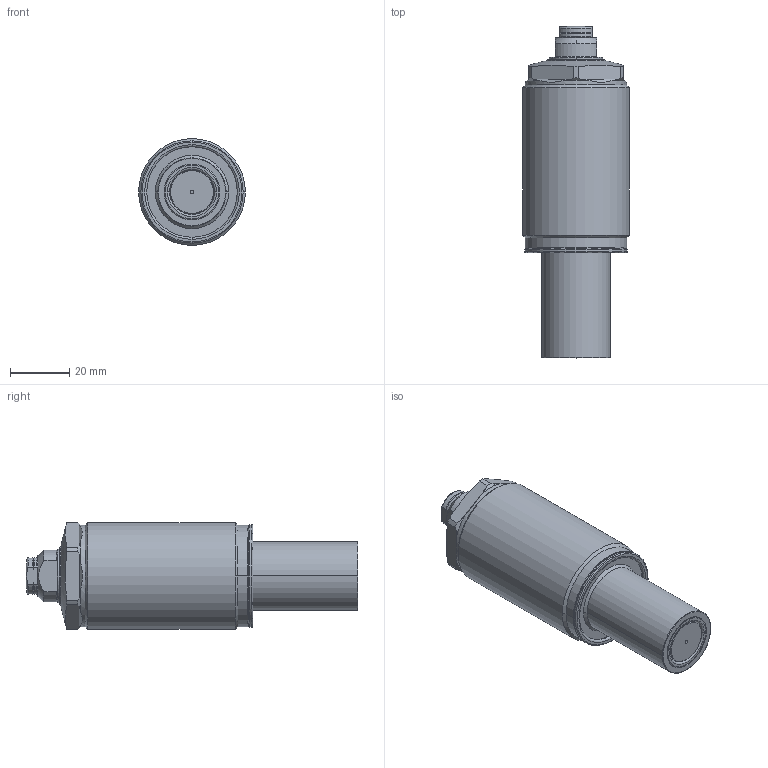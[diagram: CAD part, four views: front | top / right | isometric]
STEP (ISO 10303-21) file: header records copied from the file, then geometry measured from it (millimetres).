
FILE_DESCRIPTION(/* description */ (''),/* implementation_level */ '2;1');
FILE_NAME(/* name */ 'GSC04-Q.stp',/* time_stamp */ '2025-01-10T08:42:43+08:00',/* author */ (''),/* organization */ (''),/* preprocessor_version */ 'ST-DEVELOPER v16.7',/* originating_system */ 'SIEMENS PLM Software NX 12.0',/* authorisation */ '');
FILE_SCHEMA (('AUTOMOTIVE_DESIGN { 1 0 10303 214 3 1 1 1 }'));
Length unit declared in the file: millimetre
Products named in the file (8): TNC0403_ContactBolt_M101741; AS0103521; GSC04-Q-04; GSC04-Q-02; GSC04-Q-01; GSC04-Q-05; GSC04-Q-03; GSC04-Q_stp
Assembly tree (7 placements, depth 3):
  GSC04-Q_stp
    GSC04-Q-05
    GSC04-Q-01
    GSC04-Q-02
    GSC04-Q-03
      AS0103521
      TNC0403_ContactBolt_M101741
    GSC04-Q-04
Bounding box: 36 x 111.9 x 36 mm (x, y, z)
Volume: 82400.3 mm3; surface area: 17007.3 mm2
Topology: 6 solids, 7 shells, 157 faces, 354 edges, 218 vertices
Faces by surface type: cylinder 51, torus 38, plane 38, cone 28, sphere 2
Full cylindrical faces by diameter (mm): 34.2 x1, 36 x1
Entity records: 4785 total; most frequent: CARTESIAN_POINT 1013, DIRECTION 837, ORIENTED_EDGE 700, AXIS2_PLACEMENT_3D 374, EDGE_CURVE 350, VERTEX_POINT 218, CIRCLE 203, EDGE_LOOP 176
